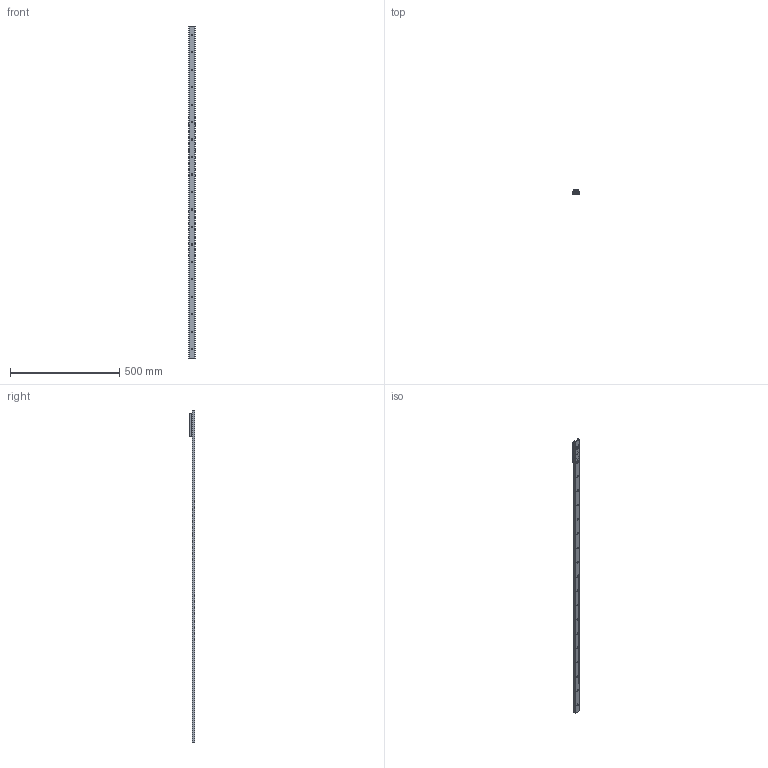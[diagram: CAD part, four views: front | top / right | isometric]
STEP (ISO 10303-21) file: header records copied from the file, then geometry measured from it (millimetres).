
FILE_DESCRIPTION( ( 'STEP AP214' ), '1' );
FILE_NAME( 'p:/temp/worker_24/temp/exporttempdir_3672_10_kd3xe/format_0/TGV-01520_1_RV28G-3.stp', '2020-11-20T16:36:17', ( 'License CC BY-ND 4.0' ), ( 'CADENAS' ), ' ', 'PARTsolutions', ' ' );
FILE_SCHEMA( ( 'AUTOMOTIVE_DESIGN { 1 0 10303 214 1 1 1 1 }' ) );
Length unit declared in the file: millimetre
Products named in the file (6): TGV-01520/1/RV28G-3; _TGV28-1520-(3-1); _RV28G-3-slider; _RGNV28R; _RGAV28R; _WR28G-01
Assembly tree (7 placements, depth 2):
  TGV-01520/1/RV28G-3
    _TGV28-1520-(3-1)
    _RV28G-3-slider
    _RGNV28R  x2
    _RGAV28R
    _WR28G-01  x2
Bounding box: 28 x 24 x 1520 mm (x, y, z)
Volume: 255951.1 mm3; surface area: 163199.4 mm2
Topology: 7 solids, 7 shells, 1050 faces, 2740 edges, 1786 vertices
Faces by surface type: plane 657, cylinder 299, cone 59, bspline 26, torus 9
Full cylindrical faces by diameter (mm): 1.27 x4, 2 x2, 2.5 x6, 4 x4, 4.134 x4, 4.2 x3, 5 x3, 5.5 x3, 5.75 x19, 7 x5, 7.5 x1, 8 x6, 10.8 x3, 17 x3, 20.75 x6
Entity records: 25381 total; most frequent: CARTESIAN_POINT 4027, DIRECTION 3390, ORIENTED_EDGE 3108, EDGE_CURVE 1554, AXIS2_PLACEMENT_3D 1300, VERTEX_POINT 1086, EDGE_LOOP 905, LINE 790
